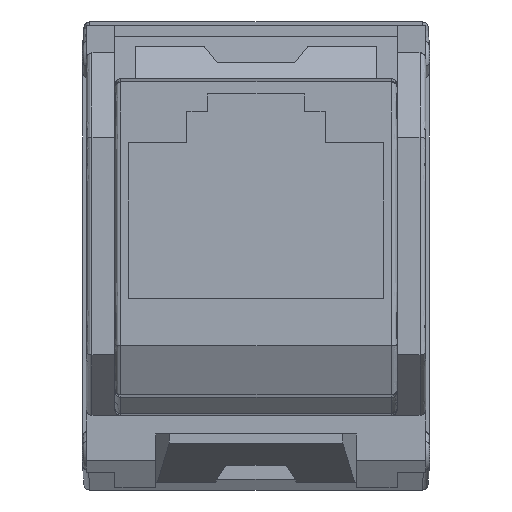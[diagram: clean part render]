
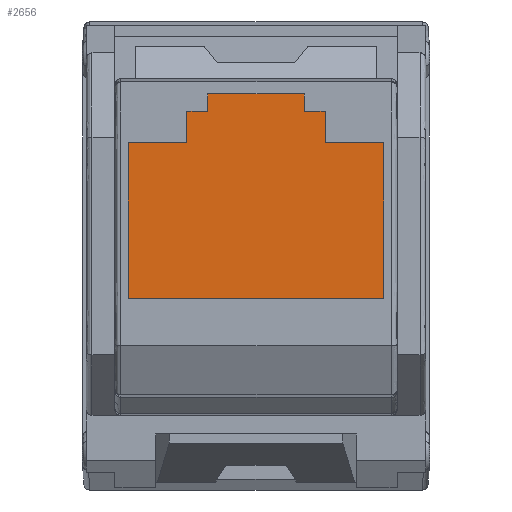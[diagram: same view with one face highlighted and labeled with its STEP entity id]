
A CAD part, left-side view. The second image highlights one B-rep face of the part: STEP entity #2656.
In plain terms, the highlighted free-form (B-spline) face has degree [1, 1] with [2, 2] control points.
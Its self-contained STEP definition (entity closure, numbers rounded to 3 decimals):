
#2282=CARTESIAN_POINT('',(10.,-2.446,7.324));
#2283=VERTEX_POINT('',#2282);
#2293=CARTESIAN_POINT('',(10.,-2.446,8.206));
#2294=VERTEX_POINT('',#2293);
#2295=CARTESIAN_POINT('',(10.,-2.446,7.324));
#2296=CARTESIAN_POINT('',(10.,-2.446,7.501));
#2297=CARTESIAN_POINT('',(10.,-2.446,7.677));
#2298=CARTESIAN_POINT('',(10.,-2.446,7.853));
#2299=CARTESIAN_POINT('',(10.,-2.446,8.03));
#2300=CARTESIAN_POINT('',(10.,-2.446,8.206));
#2301=B_SPLINE_CURVE_WITH_KNOTS('',5,(#2295,#2296,#2297,#2298,#2299,#2300),.UNSPECIFIED.,.F.,.U.,(6,6),(0.,0.882),.UNSPECIFIED.);
#2302=EDGE_CURVE('',#2283,#2294,#2301,.T.);
#2322=CARTESIAN_POINT('',(10.,-3.504,7.324));
#2323=VERTEX_POINT('',#2322);
#2333=CARTESIAN_POINT('',(10.,-3.504,7.324));
#2334=CARTESIAN_POINT('',(10.,-3.293,7.324));
#2335=CARTESIAN_POINT('',(10.,-3.081,7.324));
#2336=CARTESIAN_POINT('',(10.,-2.87,7.324));
#2337=CARTESIAN_POINT('',(10.,-2.658,7.324));
#2338=CARTESIAN_POINT('',(10.,-2.446,7.324));
#2339=B_SPLINE_CURVE_WITH_KNOTS('',5,(#2333,#2334,#2335,#2336,#2337,#2338),.UNSPECIFIED.,.F.,.U.,(6,6),(0.,1.058),.UNSPECIFIED.);
#2340=EDGE_CURVE('',#2323,#2283,#2339,.T.);
#2352=CARTESIAN_POINT('',(10.,-3.504,5.738));
#2353=VERTEX_POINT('',#2352);
#2363=CARTESIAN_POINT('',(10.,-3.504,5.738));
#2364=CARTESIAN_POINT('',(10.,-3.504,6.055));
#2365=CARTESIAN_POINT('',(10.,-3.504,6.372));
#2366=CARTESIAN_POINT('',(10.,-3.504,6.69));
#2367=CARTESIAN_POINT('',(10.,-3.504,7.007));
#2368=CARTESIAN_POINT('',(10.,-3.504,7.324));
#2369=B_SPLINE_CURVE_WITH_KNOTS('',5,(#2363,#2364,#2365,#2366,#2367,#2368),.UNSPECIFIED.,.F.,.U.,(6,6),(0.,1.587),.UNSPECIFIED.);
#2370=EDGE_CURVE('',#2353,#2323,#2369,.T.);
#2382=CARTESIAN_POINT('',(10.,-6.458,5.738));
#2383=VERTEX_POINT('',#2382);
#2393=CARTESIAN_POINT('',(10.,-6.458,5.738));
#2394=CARTESIAN_POINT('',(10.,-5.867,5.738));
#2395=CARTESIAN_POINT('',(10.,-5.276,5.738));
#2396=CARTESIAN_POINT('',(10.,-4.686,5.738));
#2397=CARTESIAN_POINT('',(10.,-4.095,5.738));
#2398=CARTESIAN_POINT('',(10.,-3.504,5.738));
#2399=B_SPLINE_CURVE_WITH_KNOTS('',5,(#2393,#2394,#2395,#2396,#2397,#2398),.UNSPECIFIED.,.F.,.U.,(6,6),(0.,2.953),.UNSPECIFIED.);
#2400=EDGE_CURVE('',#2383,#2353,#2399,.T.);
#2412=CARTESIAN_POINT('',(10.,-6.458,-2.153));
#2413=VERTEX_POINT('',#2412);
#2423=CARTESIAN_POINT('',(10.,-6.458,-2.153));
#2424=CARTESIAN_POINT('',(10.,-6.458,-0.575));
#2425=CARTESIAN_POINT('',(10.,-6.458,1.003));
#2426=CARTESIAN_POINT('',(10.,-6.458,2.581));
#2427=CARTESIAN_POINT('',(10.,-6.458,4.16));
#2428=CARTESIAN_POINT('',(10.,-6.458,5.738));
#2429=B_SPLINE_CURVE_WITH_KNOTS('',5,(#2423,#2424,#2425,#2426,#2427,#2428),.UNSPECIFIED.,.F.,.U.,(6,6),(0.,7.89),.UNSPECIFIED.);
#2430=EDGE_CURVE('',#2413,#2383,#2429,.T.);
#2442=CARTESIAN_POINT('',(10.,6.458,-2.153));
#2443=VERTEX_POINT('',#2442);
#2453=CARTESIAN_POINT('',(10.,6.458,-2.153));
#2454=CARTESIAN_POINT('',(10.,3.875,-2.153));
#2455=CARTESIAN_POINT('',(10.,1.292,-2.153));
#2456=CARTESIAN_POINT('',(10.,-1.292,-2.153));
#2457=CARTESIAN_POINT('',(10.,-3.875,-2.153));
#2458=CARTESIAN_POINT('',(10.,-6.458,-2.153));
#2459=B_SPLINE_CURVE_WITH_KNOTS('',5,(#2453,#2454,#2455,#2456,#2457,#2458),.UNSPECIFIED.,.F.,.U.,(6,6),(0.,12.915),.UNSPECIFIED.);
#2460=EDGE_CURVE('',#2443,#2413,#2459,.T.);
#2472=CARTESIAN_POINT('',(10.,6.458,5.738));
#2473=VERTEX_POINT('',#2472);
#2483=CARTESIAN_POINT('',(10.,6.458,5.738));
#2484=CARTESIAN_POINT('',(10.,6.458,4.16));
#2485=CARTESIAN_POINT('',(10.,6.458,2.581));
#2486=CARTESIAN_POINT('',(10.,6.458,1.003));
#2487=CARTESIAN_POINT('',(10.,6.458,-0.575));
#2488=CARTESIAN_POINT('',(10.,6.458,-2.153));
#2489=B_SPLINE_CURVE_WITH_KNOTS('',5,(#2483,#2484,#2485,#2486,#2487,#2488),.UNSPECIFIED.,.F.,.U.,(6,6),(0.,7.89),.UNSPECIFIED.);
#2490=EDGE_CURVE('',#2473,#2443,#2489,.T.);
#2502=CARTESIAN_POINT('',(10.,3.504,5.738));
#2503=VERTEX_POINT('',#2502);
#2513=CARTESIAN_POINT('',(10.,3.504,5.738));
#2514=CARTESIAN_POINT('',(10.,4.095,5.738));
#2515=CARTESIAN_POINT('',(10.,4.686,5.738));
#2516=CARTESIAN_POINT('',(10.,5.276,5.738));
#2517=CARTESIAN_POINT('',(10.,5.867,5.738));
#2518=CARTESIAN_POINT('',(10.,6.458,5.738));
#2519=B_SPLINE_CURVE_WITH_KNOTS('',5,(#2513,#2514,#2515,#2516,#2517,#2518),.UNSPECIFIED.,.F.,.U.,(6,6),(0.,2.953),.UNSPECIFIED.);
#2520=EDGE_CURVE('',#2503,#2473,#2519,.T.);
#2532=CARTESIAN_POINT('',(10.,3.504,7.324));
#2533=VERTEX_POINT('',#2532);
#2543=CARTESIAN_POINT('',(10.,3.504,7.324));
#2544=CARTESIAN_POINT('',(10.,3.504,7.007));
#2545=CARTESIAN_POINT('',(10.,3.504,6.69));
#2546=CARTESIAN_POINT('',(10.,3.504,6.372));
#2547=CARTESIAN_POINT('',(10.,3.504,6.055));
#2548=CARTESIAN_POINT('',(10.,3.504,5.738));
#2549=B_SPLINE_CURVE_WITH_KNOTS('',5,(#2543,#2544,#2545,#2546,#2547,#2548),.UNSPECIFIED.,.F.,.U.,(6,6),(0.,1.587),.UNSPECIFIED.);
#2550=EDGE_CURVE('',#2533,#2503,#2549,.T.);
#2562=CARTESIAN_POINT('',(10.,2.446,7.324));
#2563=VERTEX_POINT('',#2562);
#2573=CARTESIAN_POINT('',(10.,2.446,7.324));
#2574=CARTESIAN_POINT('',(10.,2.658,7.324));
#2575=CARTESIAN_POINT('',(10.,2.87,7.324));
#2576=CARTESIAN_POINT('',(10.,3.081,7.324));
#2577=CARTESIAN_POINT('',(10.,3.293,7.324));
#2578=CARTESIAN_POINT('',(10.,3.504,7.324));
#2579=B_SPLINE_CURVE_WITH_KNOTS('',5,(#2573,#2574,#2575,#2576,#2577,#2578),.UNSPECIFIED.,.F.,.U.,(6,6),(0.,1.058),.UNSPECIFIED.);
#2580=EDGE_CURVE('',#2563,#2533,#2579,.T.);
#2592=CARTESIAN_POINT('',(10.,2.446,8.206));
#2593=VERTEX_POINT('',#2592);
#2603=CARTESIAN_POINT('',(10.,2.446,8.206));
#2604=CARTESIAN_POINT('',(10.,2.446,8.03));
#2605=CARTESIAN_POINT('',(10.,2.446,7.853));
#2606=CARTESIAN_POINT('',(10.,2.446,7.677));
#2607=CARTESIAN_POINT('',(10.,2.446,7.501));
#2608=CARTESIAN_POINT('',(10.,2.446,7.324));
#2609=B_SPLINE_CURVE_WITH_KNOTS('',5,(#2603,#2604,#2605,#2606,#2607,#2608),.UNSPECIFIED.,.F.,.U.,(6,6),(0.,0.882),.UNSPECIFIED.);
#2610=EDGE_CURVE('',#2593,#2563,#2609,.T.);
#2623=CARTESIAN_POINT('',(10.,-2.446,8.206));
#2624=CARTESIAN_POINT('',(10.,-1.468,8.206));
#2625=CARTESIAN_POINT('',(10.,-0.489,8.206));
#2626=CARTESIAN_POINT('',(10.,0.489,8.206));
#2627=CARTESIAN_POINT('',(10.,1.468,8.206));
#2628=CARTESIAN_POINT('',(10.,2.446,8.206));
#2629=B_SPLINE_CURVE_WITH_KNOTS('',5,(#2623,#2624,#2625,#2626,#2627,#2628),.UNSPECIFIED.,.F.,.U.,(6,6),(0.,4.893),.UNSPECIFIED.);
#2630=EDGE_CURVE('',#2294,#2593,#2629,.T.);
#2637=CARTESIAN_POINT('',(10.,-6.458,-2.153));
#2638=CARTESIAN_POINT('',(10.,-6.458,8.206));
#2639=CARTESIAN_POINT('',(10.,6.458,-2.153));
#2640=CARTESIAN_POINT('',(10.,6.458,8.206));
#2641=B_SPLINE_SURFACE_WITH_KNOTS('',1,1,((#2637,#2638),(#2639,#2640)),.PLANE_SURF.,.F.,.F.,.U.,(2,2),(2,2),(0.,1.247),(0.,1.),.UNSPECIFIED.);
#2642=ORIENTED_EDGE('',*,*,#2302,.F.);
#2643=ORIENTED_EDGE('',*,*,#2340,.F.);
#2644=ORIENTED_EDGE('',*,*,#2370,.F.);
#2645=ORIENTED_EDGE('',*,*,#2400,.F.);
#2646=ORIENTED_EDGE('',*,*,#2430,.F.);
#2647=ORIENTED_EDGE('',*,*,#2460,.F.);
#2648=ORIENTED_EDGE('',*,*,#2490,.F.);
#2649=ORIENTED_EDGE('',*,*,#2520,.F.);
#2650=ORIENTED_EDGE('',*,*,#2550,.F.);
#2651=ORIENTED_EDGE('',*,*,#2580,.F.);
#2652=ORIENTED_EDGE('',*,*,#2610,.F.);
#2653=ORIENTED_EDGE('',*,*,#2630,.F.);
#2654=EDGE_LOOP('',(#2642,#2643,#2644,#2645,#2646,#2647,#2648,#2649,#2650,#2651,#2652,#2653));
#2655=FACE_OUTER_BOUND('',#2654,.F.);
#2656=ADVANCED_FACE('',(#2655),#2641,.F.);
